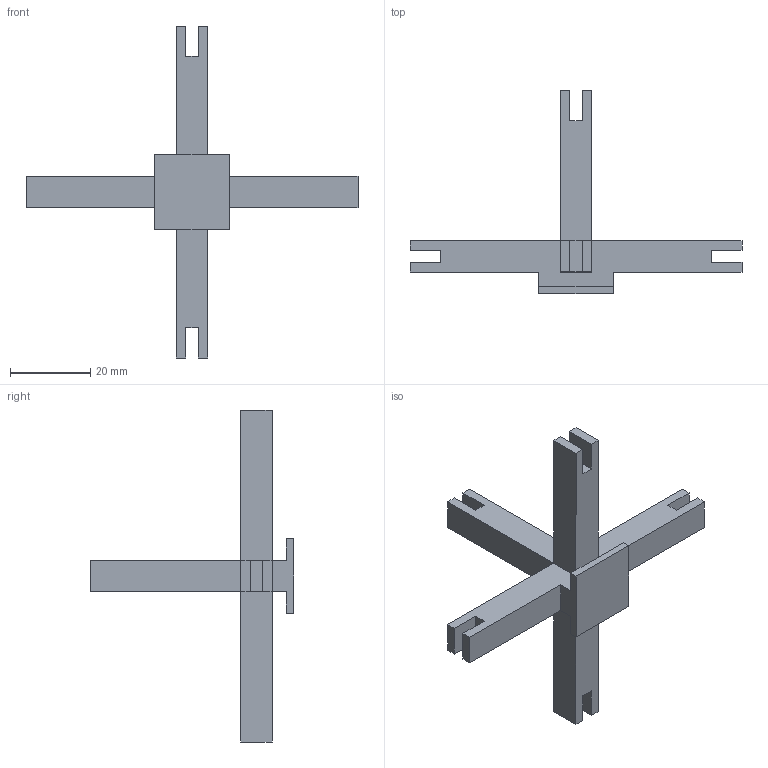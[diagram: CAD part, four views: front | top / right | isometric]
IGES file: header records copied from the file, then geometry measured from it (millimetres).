
Start section: Data from Parasolid IGES Translator 20.0.26, Copyright(c) 2006 Siemens P LM Software. All Rights Reserved.
Global section: file name: 9303881.igs; native system: By Siemens PLM Incorporated; preprocessor: XPlus GENERIC/IGES 20.0.26; author: Noname; organization: Noname; date: 20210823.122205; units: millimetre
Bounding box: 82.5 x 50.5 x 82.5 mm (x, y, z)
Surface area: 7267.5 mm2 (no closed solid volume)
Topology: 0 solids, 0 shells, 50 faces, 264 edges, 264 vertices
Faces by surface type: extrusion 50
